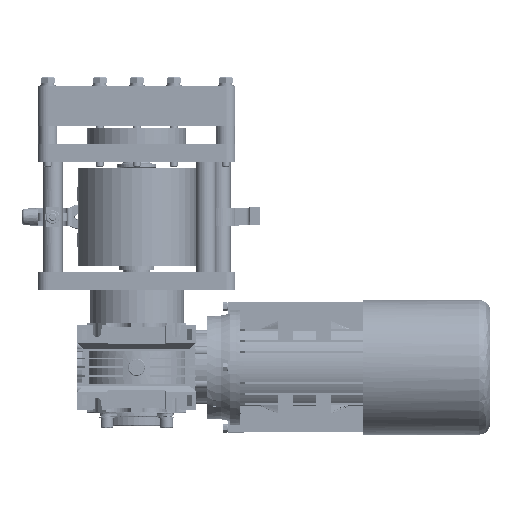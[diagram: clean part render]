
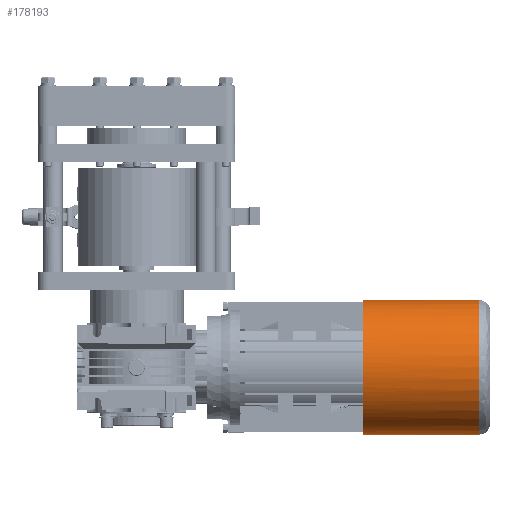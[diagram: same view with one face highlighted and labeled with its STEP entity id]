
A CAD part, front view. The second image highlights one B-rep face of the part: STEP entity #178193.
In plain terms, the highlighted cylindrical face has radius 68 mm (diameter 136 mm), a partial arc.
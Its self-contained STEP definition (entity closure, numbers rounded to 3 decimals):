
#14589 = VERTEX_POINT ( 'NONE', #133269 ) ;
#22423 = CARTESIAN_POINT ( 'NONE',  ( 0., -178., 0. ) ) ;
#31340 = ORIENTED_EDGE ( 'NONE', *, *, #115915, .T. ) ;
#33954 = DIRECTION ( 'NONE',  ( 0., 1., 0. ) ) ;
#34695 = VECTOR ( 'NONE', #191657, 1000. ) ;
#35415 = CARTESIAN_POINT ( 'NONE',  ( 0., -295., 0. ) ) ;
#49898 = CIRCLE ( 'NONE', #51661, 68. ) ;
#51661 = AXIS2_PLACEMENT_3D ( 'NONE', #22423, #189331, #104870 ) ;
#53428 = ORIENTED_EDGE ( 'NONE', *, *, #160312, .F. ) ;
#61379 = CARTESIAN_POINT ( 'NONE',  ( 0., -295., -68. ) ) ;
#66358 = LINE ( 'NONE', #73365, #34695 ) ;
#73365 = CARTESIAN_POINT ( 'NONE',  ( 0., -304.5, -68. ) ) ;
#74719 = CARTESIAN_POINT ( 'NONE',  ( 0., -304.5, 0. ) ) ;
#76276 = CARTESIAN_POINT ( 'NONE',  ( 0., -304.5, 68. ) ) ;
#80234 = EDGE_LOOP ( 'NONE', ( #154667, #103273, #31340, #53428 ) ) ;
#86757 = EDGE_CURVE ( 'NONE', #131830, #14589, #66358, .T. ) ;
#94401 = VERTEX_POINT ( 'NONE', #197068 ) ;
#103273 = ORIENTED_EDGE ( 'NONE', *, *, #86757, .T. ) ;
#104870 = DIRECTION ( 'NONE',  ( 0., 0., 1. ) ) ;
#115915 = EDGE_CURVE ( 'NONE', #14589, #131199, #49898, .T. ) ;
#116761 = CARTESIAN_POINT ( 'NONE',  ( 0., -178., 68. ) ) ;
#124726 = DIRECTION ( 'NONE',  ( 0., 1., 0. ) ) ;
#131199 = VERTEX_POINT ( 'NONE', #116761 ) ;
#131830 = VERTEX_POINT ( 'NONE', #61379 ) ;
#133269 = CARTESIAN_POINT ( 'NONE',  ( 0., -178., -68. ) ) ;
#143118 = DIRECTION ( 'NONE',  ( 0., 0., 1. ) ) ;
#148681 = FACE_OUTER_BOUND ( 'NONE', #80234, .T. ) ;
#152314 = EDGE_CURVE ( 'NONE', #94401, #131830, #180673, .T. ) ;
#154667 = ORIENTED_EDGE ( 'NONE', *, *, #152314, .T. ) ;
#160312 = EDGE_CURVE ( 'NONE', #94401, #131199, #203708, .T. ) ;
#177090 = AXIS2_PLACEMENT_3D ( 'NONE', #74719, #124726, #143118 ) ;
#178193 = ADVANCED_FACE ( 'NONE', ( #148681 ), #198583, .T. ) ;
#179880 = DIRECTION ( 'NONE',  ( 0., 1., 0. ) ) ;
#180673 = CIRCLE ( 'NONE', #214677, 68. ) ;
#189331 = DIRECTION ( 'NONE',  ( 0., -1., 0. ) ) ;
#190660 = VECTOR ( 'NONE', #179880, 1000. ) ;
#191657 = DIRECTION ( 'NONE',  ( 0., 1., 0. ) ) ;
#197068 = CARTESIAN_POINT ( 'NONE',  ( 0., -295., 68. ) ) ;
#198583 = CYLINDRICAL_SURFACE ( 'NONE', #177090, 68. ) ;
#203708 = LINE ( 'NONE', #76276, #190660 ) ;
#204473 = DIRECTION ( 'NONE',  ( 0., 0., 1. ) ) ;
#214677 = AXIS2_PLACEMENT_3D ( 'NONE', #35415, #33954, #204473 ) ;
